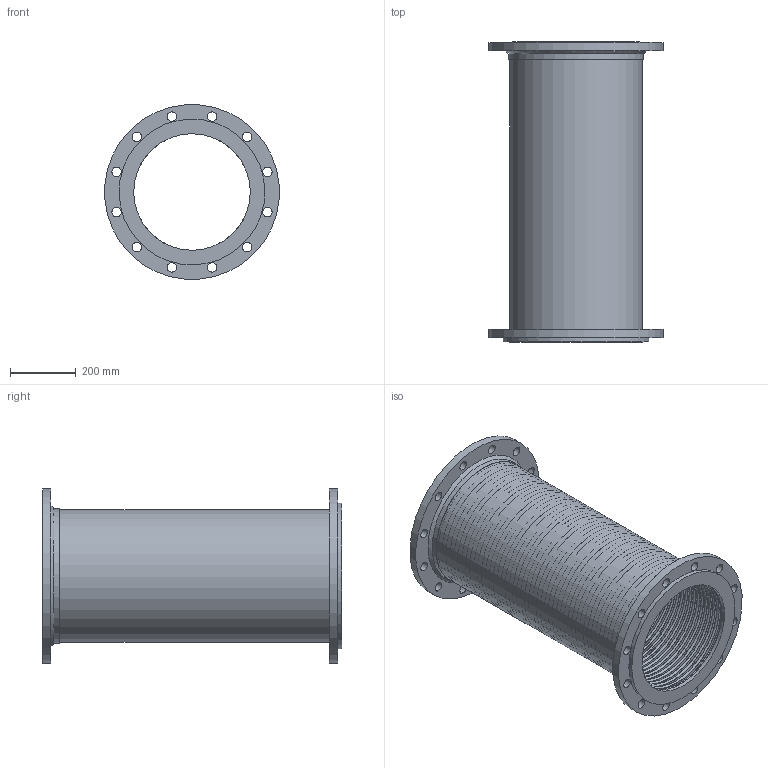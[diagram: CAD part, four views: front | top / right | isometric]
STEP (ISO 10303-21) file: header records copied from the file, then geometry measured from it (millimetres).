
FILE_DESCRIPTION((''),'2;1');
FILE_NAME('C:\REVIT SHARED FILES\STP\FFL14x36ASA150.stp','2013-06-14T19:31:18',('rramoutar'),(''),'Autodesk Inventor 2012','Autodesk Inventor 2012','');
FILE_SCHEMA(('AUTOMOTIVE_DESIGN { 1 0 10303 214 1 1 1 1 }'));
Length unit declared in the file: inch
Products named in the file (8): FFL 14x36 Per A-30315-3; FFL 14x36 Per A-30315-3_Welds; A-30302-2 FIXED FLANGE 14 inch 150 #; A-30303-1 FLOATING FLANGE 14 inch 150 #; A-30304-2 FFL WELDED WASHER 14 inch 150 #; A-29781-7 14.0 inch braid collar; FFL 14x36 Stainless Hose; FFL 14x36 Stainless Braid
Assembly tree (8 placements, depth 2):
  FFL 14x36 Per A-30315-3
    FFL 14x36 Per A-30315-3_Welds
    A-30302-2 FIXED FLANGE 14 inch 150 #
    A-30303-1 FLOATING FLANGE 14 inch 150 #
    A-30304-2 FFL WELDED WASHER 14 inch 150 #
    A-29781-7 14.0 inch braid collar  x2
    FFL 14x36 Stainless Hose
    FFL 14x36 Stainless Braid
Bounding box: 531.37 x 914.4 x 531.37 mm (x, y, z)
Volume: 9781168.4 mm3; surface area: 9982506.9 mm2
Topology: 9 solids, 9 shells, 473 faces, 753 edges, 503 vertices
Faces by surface type: plane 223, torus 208, cylinder 39, bspline 2, cone 1
Full cylindrical faces by diameter (mm): 28.575 x24, 355.6 x2, 402.844 x1, 404.876 x1, 406.908 x2, 409.289 x4, 412.75 x2, 444.5 x1, 533.4 x2
Entity records: 10476 total; most frequent: DIRECTION 1944, CARTESIAN_POINT 1919, ORIENTED_EDGE 998, EDGE_LOOP 984, AXIS2_PLACEMENT_3D 972, FACE_BOUND 515, EDGE_CURVE 499, VERTEX_POINT 497
